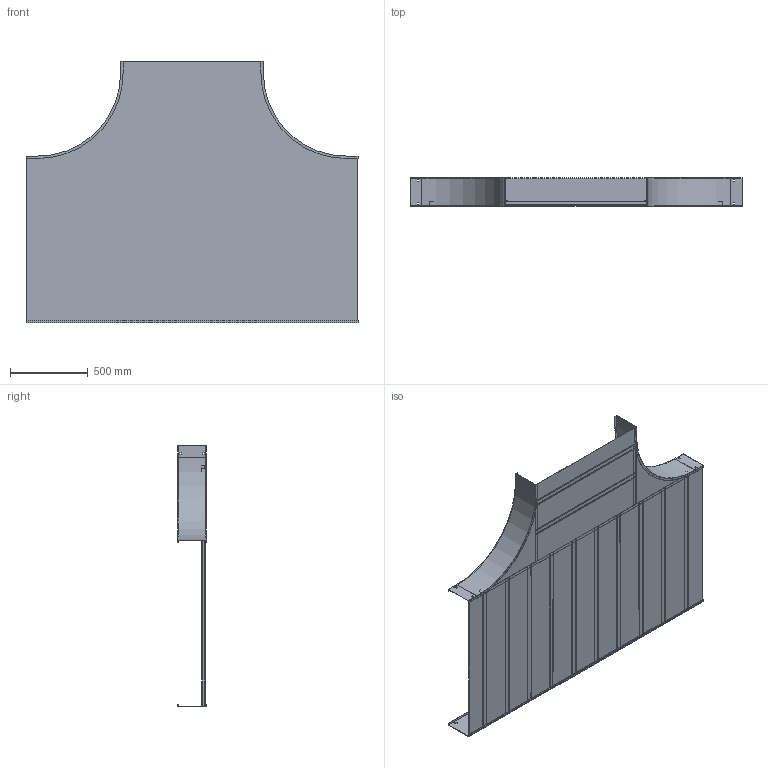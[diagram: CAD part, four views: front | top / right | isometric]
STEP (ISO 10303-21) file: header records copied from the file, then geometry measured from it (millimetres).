
FILE_DESCRIPTION((''),'2;1');
FILE_NAME('AUF74236SRT24_ASM','2010-02-12T',('erouzier'),(''),'PRO/ENGINEER BY PARAMETRIC TECHNOLOGY CORPORATION, 2008510','PRO/ENGINEER BY PARAMETRIC TECHNOLOGY CORPORATION, 2008510','');
FILE_SCHEMA(('CONFIG_CONTROL_DESIGN'));
Length unit declared in the file: inch
Products named in the file (18): CDS001322-7-90-21-I; CDS013844-7-84; CDS000495_GEN_AF9; CDS002159L42_AF8; CDS002159L42_AF9; CDS002159L42_AF10; CDS002159L42_AF11; CDS002159L42; CDS002159L42_AF12; CDS002159L42_AF13; CDS002159L42_AF14; CDS002159L42_AF15; CDS000495_GEN_AF10; CDS000495_GEN_AF11; CDS002159L36_AF2; CDS002159L36_AF3; CDS005002-42-24-36; AUF74236SRT24_ASM
Assembly tree (19 placements, depth 2):
  AUF74236SRT24_ASM
    CDS001322-7-90-21-I  x2
    CDS013844-7-84
    CDS000495_GEN_AF9
    CDS002159L42_AF8
    CDS002159L42_AF9
    CDS002159L42_AF10
    CDS002159L42_AF11
    CDS002159L42  x2
    CDS002159L42_AF12
    CDS002159L42_AF13
    CDS002159L42_AF14
    CDS002159L42_AF15
    CDS000495_GEN_AF10
    CDS000495_GEN_AF11
    CDS002159L36_AF2
    CDS002159L36_AF3
    CDS005002-42-24-36
Bounding box: 2139.19 x 183.9 x 1681.99 mm (x, y, z)
Volume: 7617737.4 mm3; surface area: 10986305.9 mm2
Topology: 19 solids, 19 shells, 496 faces, 1374 edges, 916 vertices
Faces by surface type: plane 354, cylinder 142
Entity records: 14211 total; most frequent: CARTESIAN_POINT 2459, ORIENTED_EDGE 2388, DIRECTION 2386, EDGE_CURVE 1194, VECTOR 940, LINE 940, VERTEX_POINT 796, AXIS2_PLACEMENT_3D 723
